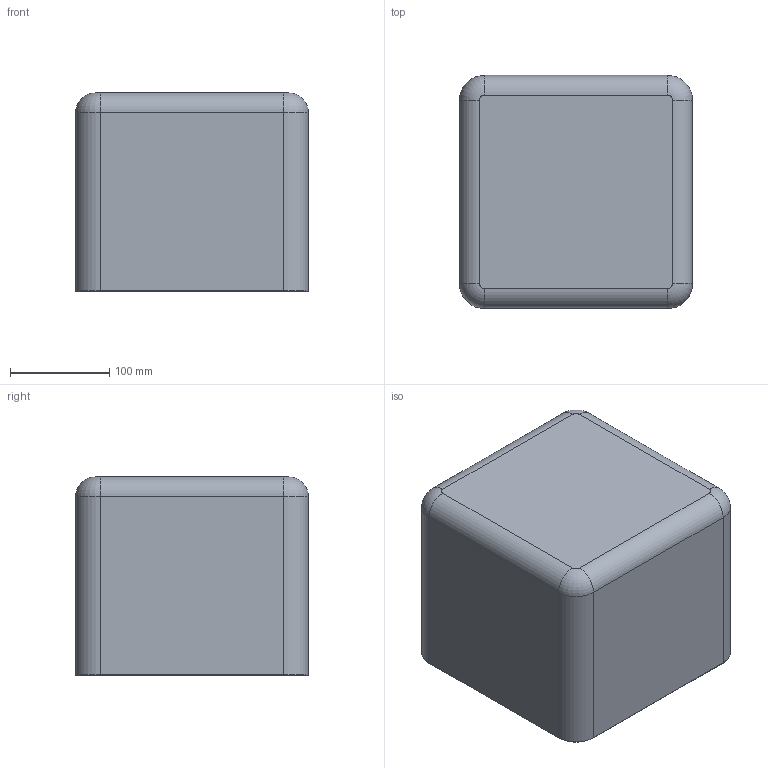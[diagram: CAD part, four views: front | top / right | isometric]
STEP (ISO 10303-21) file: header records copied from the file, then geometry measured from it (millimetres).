
FILE_DESCRIPTION(/* description */ ('STEP AP242 Edition 2','CAx-IF Rec.Pracs.---Representation and Presentation of Product Manufacturing Information (PMI)---4.0---2014-10-13','CAx-IF Rec.Pracs.---3D Tessellated Geometry---0.4---2014-09-14','2;1','CAx-IF Rec.Pracs.---User Defined Attributes---1.5---2016-08-15'),/* implementation_level */ '2;1');
FILE_NAME(/* name */ '693e1f723100820afeb075f6',/* time_stamp */ '2025-12-14T02:22:45Z',/* author */ (''),/* organization */ (''),/* preprocessor_version */ 'ST-DEVELOPER v20',/* originating_system */ 'ONSHAPE BY PTC INC, 1.208',/* authorisation */ ' ');
FILE_SCHEMA (('AP242_MANAGED_MODEL_BASED_3D_ENGINEERING_MIM_LF { 1 0 10303 442 3 1 4 }'));
Products named in the file (6): Thin Support breakaway; Speaker Top; Part 6
Bounding box: 235 x 235 x 200 mm (x, y, z)
Volume: 6424222.7 mm3; surface area: 1146397.6 mm2
Topology: 6 solids, 6 shells, 2736 faces, 9316 edges, 6176 vertices
Faces by surface type: plane 2656, cylinder 56, torus 16, sphere 8
Entity records: 100309 total; most frequent: ORIENTED_EDGE 18616, CARTESIAN_POINT 18226, DIRECTION 14920, EDGE_CURVE 9308, LINE 9180, VECTOR 9180, VERTEX_POINT 6176, EDGE_LOOP 3040
